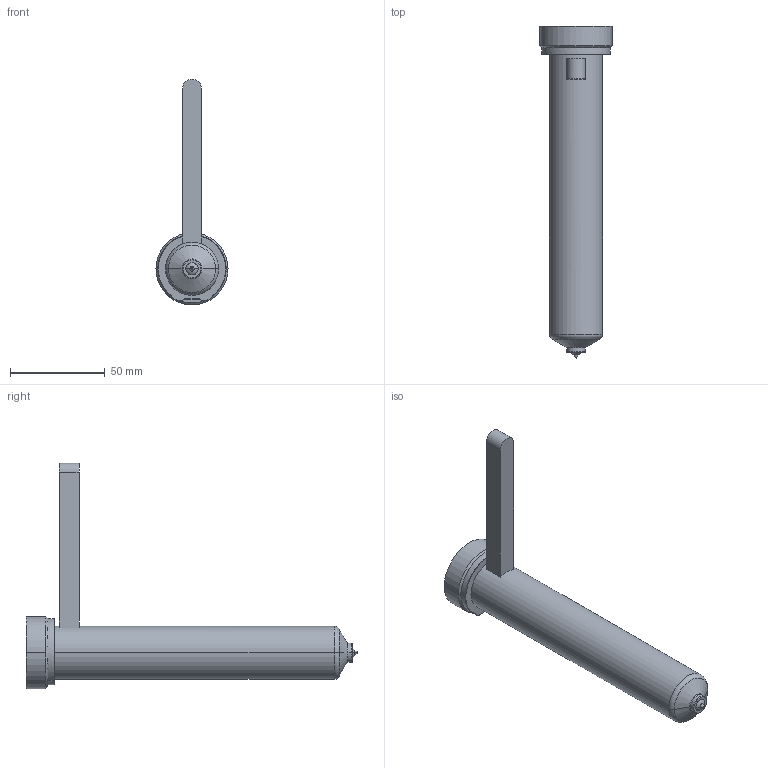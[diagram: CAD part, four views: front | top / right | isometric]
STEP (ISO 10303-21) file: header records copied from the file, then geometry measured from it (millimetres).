
FILE_DESCRIPTION((''),'2;1');
FILE_NAME('EO06_VG-BL_WR_160_COT','2024-02-19T13:04:19',('sundharh'),(''),'CREO PARAMETRIC BY PTC INC, 2023154','CREO PARAMETRIC BY PTC INC, 2023154','');
FILE_SCHEMA(('CONFIG_CONTROL_DESIGN'));
Length unit declared in the file: millimetre
Products named in the file (1): EO06_VG-BL_WR_160_COT
Bounding box: 38 x 175 x 119 mm (x, y, z)
Volume: 119088.2 mm3; surface area: 20705.4 mm2
Topology: 1 solids, 1 shells, 38 faces, 81 edges, 48 vertices
Faces by surface type: cylinder 11, plane 10, torus 9, cone 6, sphere 2
Entity records: 1147 total; most frequent: CARTESIAN_POINT 259, DIRECTION 199, ORIENTED_EDGE 162, AXIS2_PLACEMENT_3D 86, EDGE_CURVE 81, VERTEX_POINT 48, CIRCLE 48, EDGE_LOOP 41
